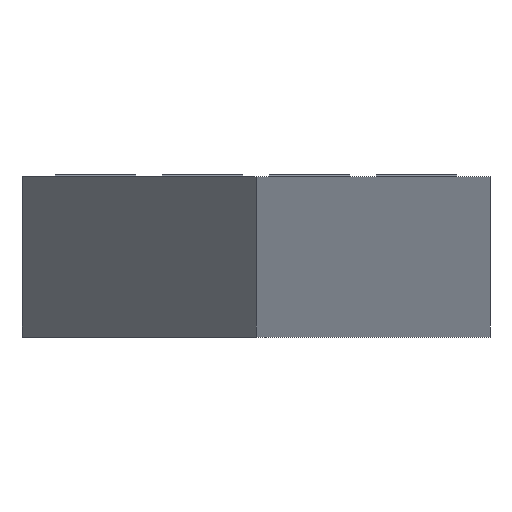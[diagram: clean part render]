
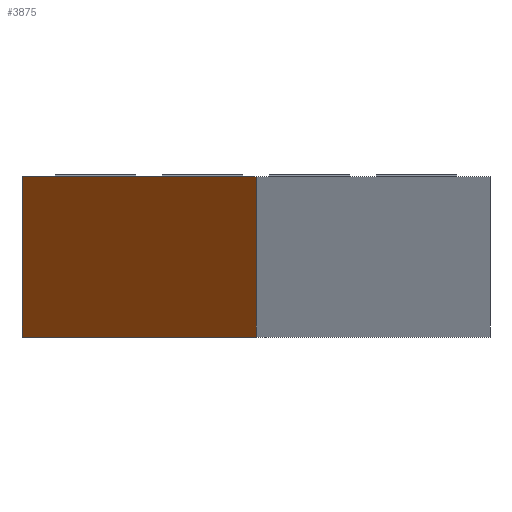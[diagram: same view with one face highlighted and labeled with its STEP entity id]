
A CAD part, front view. The second image highlights one B-rep face of the part: STEP entity #3875.
In plain terms, the highlighted planar face has unit normal (-0.981, -0.196, 0).
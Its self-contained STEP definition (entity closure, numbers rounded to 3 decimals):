
#3875 = ADVANCED_FACE('',(#3876),#3890,.F.);
#3876 = FACE_BOUND('',#3877,.F.);
#3877 = EDGE_LOOP('',(#3878,#3913,#3941,#3969));
#3878 = ORIENTED_EDGE('',*,*,#3879,.T.);
#3879 = EDGE_CURVE('',#3880,#3882,#3884,.T.);
#3880 = VERTEX_POINT('',#3881);
#3881 = CARTESIAN_POINT('',(-0.035,0.175,-0.012));
#3882 = VERTEX_POINT('',#3883);
#3883 = CARTESIAN_POINT('',(-0.035,0.175,0.012));
#3884 = SURFACE_CURVE('',#3885,(#3889,#3901),.PCURVE_S1.);
#3885 = LINE('',#3886,#3887);
#3886 = CARTESIAN_POINT('',(-0.035,0.175,-0.012));
#3887 = VECTOR('',#3888,1.);
#3888 = DIRECTION('',(0.,0.,1.));
#3889 = PCURVE('',#3890,#3895);
#3890 = PLANE('',#3891);
#3891 = AXIS2_PLACEMENT_3D('',#3892,#3893,#3894);
#3892 = CARTESIAN_POINT('',(-0.035,0.175,-0.012));
#3893 = DIRECTION('',(0.981,0.196,-0.));
#3894 = DIRECTION('',(0.196,-0.981,0.));
#3895 = DEFINITIONAL_REPRESENTATION('',(#3896),#3900);
#3896 = LINE('',#3897,#3898);
#3897 = CARTESIAN_POINT('',(0.,0.));
#3898 = VECTOR('',#3899,1.);
#3899 = DIRECTION('',(0.,-1.));
#3900 = ( GEOMETRIC_REPRESENTATION_CONTEXT(2) 
PARAMETRIC_REPRESENTATION_CONTEXT() REPRESENTATION_CONTEXT('2D SPACE',''
  ) );
#3901 = PCURVE('',#3902,#3907);
#3902 = PLANE('',#3903);
#3903 = AXIS2_PLACEMENT_3D('',#3904,#3905,#3906);
#3904 = CARTESIAN_POINT('',(-0.035,10.,-0.012));
#3905 = DIRECTION('',(1.,0.,-0.));
#3906 = DIRECTION('',(0.,-1.,0.));
#3907 = DEFINITIONAL_REPRESENTATION('',(#3908),#3912);
#3908 = LINE('',#3909,#3910);
#3909 = CARTESIAN_POINT('',(9.825,0.));
#3910 = VECTOR('',#3911,1.);
#3911 = DIRECTION('',(0.,-1.));
#3912 = ( GEOMETRIC_REPRESENTATION_CONTEXT(2) 
PARAMETRIC_REPRESENTATION_CONTEXT() REPRESENTATION_CONTEXT('2D SPACE',''
  ) );
#3913 = ORIENTED_EDGE('',*,*,#3914,.T.);
#3914 = EDGE_CURVE('',#3882,#3915,#3917,.T.);
#3915 = VERTEX_POINT('',#3916);
#3916 = CARTESIAN_POINT('',(0.,0.,0.012));
#3917 = SURFACE_CURVE('',#3918,(#3922,#3929),.PCURVE_S1.);
#3918 = LINE('',#3919,#3920);
#3919 = CARTESIAN_POINT('',(-0.035,0.175,0.012));
#3920 = VECTOR('',#3921,1.);
#3921 = DIRECTION('',(0.196,-0.981,0.));
#3922 = PCURVE('',#3890,#3923);
#3923 = DEFINITIONAL_REPRESENTATION('',(#3924),#3928);
#3924 = LINE('',#3925,#3926);
#3925 = CARTESIAN_POINT('',(0.,-0.024));
#3926 = VECTOR('',#3927,1.);
#3927 = DIRECTION('',(1.,0.));
#3928 = ( GEOMETRIC_REPRESENTATION_CONTEXT(2) 
PARAMETRIC_REPRESENTATION_CONTEXT() REPRESENTATION_CONTEXT('2D SPACE',''
  ) );
#3929 = PCURVE('',#3930,#3935);
#3930 = PLANE('',#3931);
#3931 = AXIS2_PLACEMENT_3D('',#3932,#3933,#3934);
#3932 = CARTESIAN_POINT('',(0.,5.016,0.012));
#3933 = DIRECTION('',(0.,0.,1.));
#3934 = DIRECTION('',(1.,0.,-0.));
#3935 = DEFINITIONAL_REPRESENTATION('',(#3936),#3940);
#3936 = LINE('',#3937,#3938);
#3937 = CARTESIAN_POINT('',(-0.035,-4.841));
#3938 = VECTOR('',#3939,1.);
#3939 = DIRECTION('',(0.196,-0.981));
#3940 = ( GEOMETRIC_REPRESENTATION_CONTEXT(2) 
PARAMETRIC_REPRESENTATION_CONTEXT() REPRESENTATION_CONTEXT('2D SPACE',''
  ) );
#3941 = ORIENTED_EDGE('',*,*,#3942,.F.);
#3942 = EDGE_CURVE('',#3943,#3915,#3945,.T.);
#3943 = VERTEX_POINT('',#3944);
#3944 = CARTESIAN_POINT('',(0.,0.,-0.012));
#3945 = SURFACE_CURVE('',#3946,(#3950,#3957),.PCURVE_S1.);
#3946 = LINE('',#3947,#3948);
#3947 = CARTESIAN_POINT('',(0.,0.,-0.012));
#3948 = VECTOR('',#3949,1.);
#3949 = DIRECTION('',(0.,0.,1.));
#3950 = PCURVE('',#3890,#3951);
#3951 = DEFINITIONAL_REPRESENTATION('',(#3952),#3956);
#3952 = LINE('',#3953,#3954);
#3953 = CARTESIAN_POINT('',(0.178,0.));
#3954 = VECTOR('',#3955,1.);
#3955 = DIRECTION('',(0.,-1.));
#3956 = ( GEOMETRIC_REPRESENTATION_CONTEXT(2) 
PARAMETRIC_REPRESENTATION_CONTEXT() REPRESENTATION_CONTEXT('2D SPACE',''
  ) );
#3957 = PCURVE('',#3958,#3963);
#3958 = PLANE('',#3959);
#3959 = AXIS2_PLACEMENT_3D('',#3960,#3961,#3962);
#3960 = CARTESIAN_POINT('',(0.,0.,-0.012));
#3961 = DIRECTION('',(-0.981,0.196,0.));
#3962 = DIRECTION('',(0.196,0.981,0.));
#3963 = DEFINITIONAL_REPRESENTATION('',(#3964),#3968);
#3964 = LINE('',#3965,#3966);
#3965 = CARTESIAN_POINT('',(0.,0.));
#3966 = VECTOR('',#3967,1.);
#3967 = DIRECTION('',(0.,-1.));
#3968 = ( GEOMETRIC_REPRESENTATION_CONTEXT(2) 
PARAMETRIC_REPRESENTATION_CONTEXT() REPRESENTATION_CONTEXT('2D SPACE',''
  ) );
#3969 = ORIENTED_EDGE('',*,*,#3970,.F.);
#3970 = EDGE_CURVE('',#3880,#3943,#3971,.T.);
#3971 = SURFACE_CURVE('',#3972,(#3976,#3983),.PCURVE_S1.);
#3972 = LINE('',#3973,#3974);
#3973 = CARTESIAN_POINT('',(-0.035,0.175,-0.012));
#3974 = VECTOR('',#3975,1.);
#3975 = DIRECTION('',(0.196,-0.981,0.));
#3976 = PCURVE('',#3890,#3977);
#3977 = DEFINITIONAL_REPRESENTATION('',(#3978),#3982);
#3978 = LINE('',#3979,#3980);
#3979 = CARTESIAN_POINT('',(0.,0.));
#3980 = VECTOR('',#3981,1.);
#3981 = DIRECTION('',(1.,0.));
#3982 = ( GEOMETRIC_REPRESENTATION_CONTEXT(2) 
PARAMETRIC_REPRESENTATION_CONTEXT() REPRESENTATION_CONTEXT('2D SPACE',''
  ) );
#3983 = PCURVE('',#3984,#3989);
#3984 = PLANE('',#3985);
#3985 = AXIS2_PLACEMENT_3D('',#3986,#3987,#3988);
#3986 = CARTESIAN_POINT('',(0.,5.016,-0.012));
#3987 = DIRECTION('',(0.,0.,1.));
#3988 = DIRECTION('',(1.,0.,-0.));
#3989 = DEFINITIONAL_REPRESENTATION('',(#3990),#3994);
#3990 = LINE('',#3991,#3992);
#3991 = CARTESIAN_POINT('',(-0.035,-4.841));
#3992 = VECTOR('',#3993,1.);
#3993 = DIRECTION('',(0.196,-0.981));
#3994 = ( GEOMETRIC_REPRESENTATION_CONTEXT(2) 
PARAMETRIC_REPRESENTATION_CONTEXT() REPRESENTATION_CONTEXT('2D SPACE',''
  ) );
